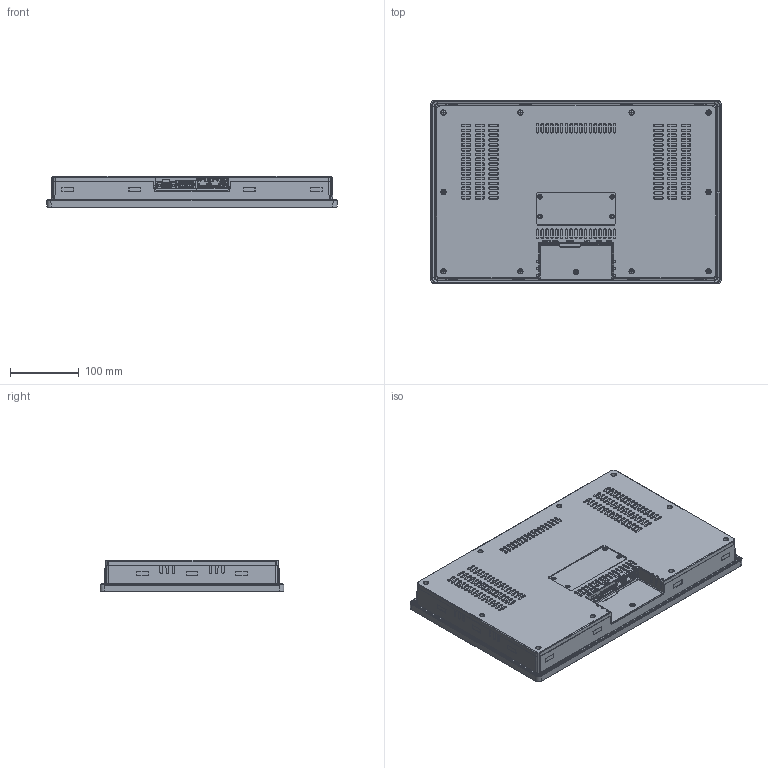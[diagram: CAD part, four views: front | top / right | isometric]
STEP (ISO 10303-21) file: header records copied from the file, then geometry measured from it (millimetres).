
FILE_DESCRIPTION (( 'STEP AP214' ), '1' );
FILE_NAME ('HMeX215 Standard.STEP', '2024-02-16T08:34:51', ( '' ), ( '' ), 'SwSTEP 2.0', 'SolidWorks 2023', '' );
FILE_SCHEMA (( 'AUTOMOTIVE_DESIGN' ));
Products named in the file (1): HMeX215 Standard
Bounding box: 422.7 x 267.7 x 45.65 mm (x, y, z)
Volume: 4675108.1 mm3; surface area: 328423 mm2
Topology: 1 solids, 28 shells, 5100 faces, 13076 edges, 8176 vertices
Faces by surface type: plane 2677, cylinder 967, cone 504, torus 466, bspline 410, sphere 76
Entity records: 164436 total; most frequent: CARTESIAN_POINT 42870, ORIENTED_EDGE 26016, DIRECTION 24379, EDGE_CURVE 13008, VECTOR 8263, LINE 8263, VERTEX_POINT 8176, AXIS2_PLACEMENT_3D 8058
